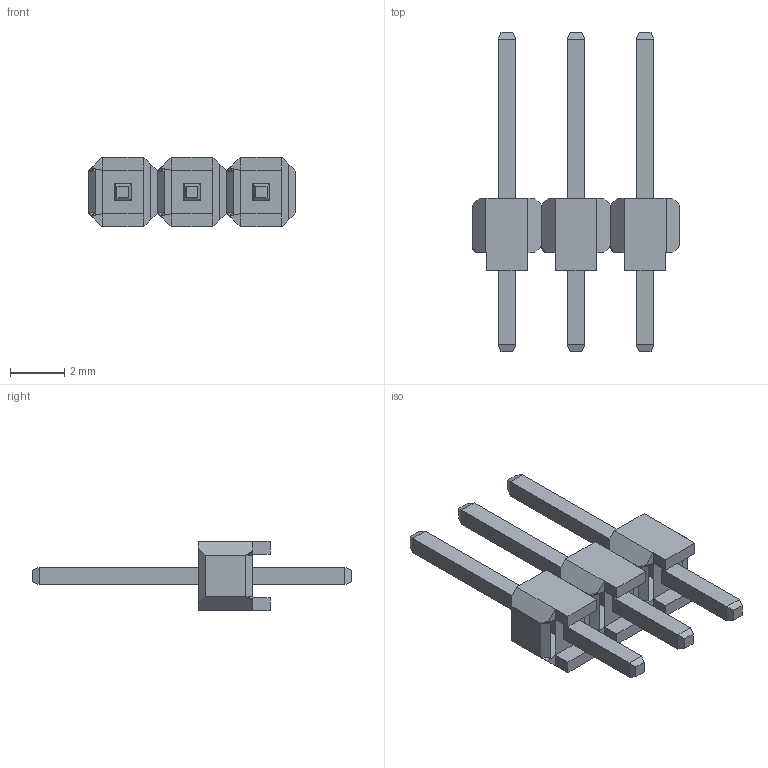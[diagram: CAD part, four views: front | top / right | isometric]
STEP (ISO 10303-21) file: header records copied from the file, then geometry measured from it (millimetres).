
FILE_DESCRIPTION(('FreeCAD Model'),'2;1');
FILE_NAME('Open CASCADE Shape Model','2025-01-09T12:58:03',(''),(''), 'Open CASCADE STEP processor 7.8','FreeCAD','Unknown');
FILE_SCHEMA(('AUTOMOTIVE_DESIGN { 1 0 10303 214 1 1 1 1 }'));
Length unit declared in the file: millimetre
Products named in the file (5): M20_999xxxx_Gold; Array; Body; Array001; Body001
Assembly tree (8 placements, depth 3):
  M20_999xxxx_Gold
    Array
      Body  x3
    Array001
      Body001  x3
Bounding box: 7.62 x 11.74 x 2.54 mm (x, y, z)
Volume: 14.3 mm3; surface area: 205.4 mm2
Topology: 3 solids, 6 shells, 138 faces, 324 edges, 198 vertices
Faces by surface type: plane 132, bspline 6
Entity records: 1576 total; most frequent: CARTESIAN_POINT 409, ORIENTED_EDGE 213, DIRECTION 212, EDGE_CURVE 108, LINE 106, VECTOR 106, VERTEX_POINT 68, AXIS2_PLACEMENT_3D 53
